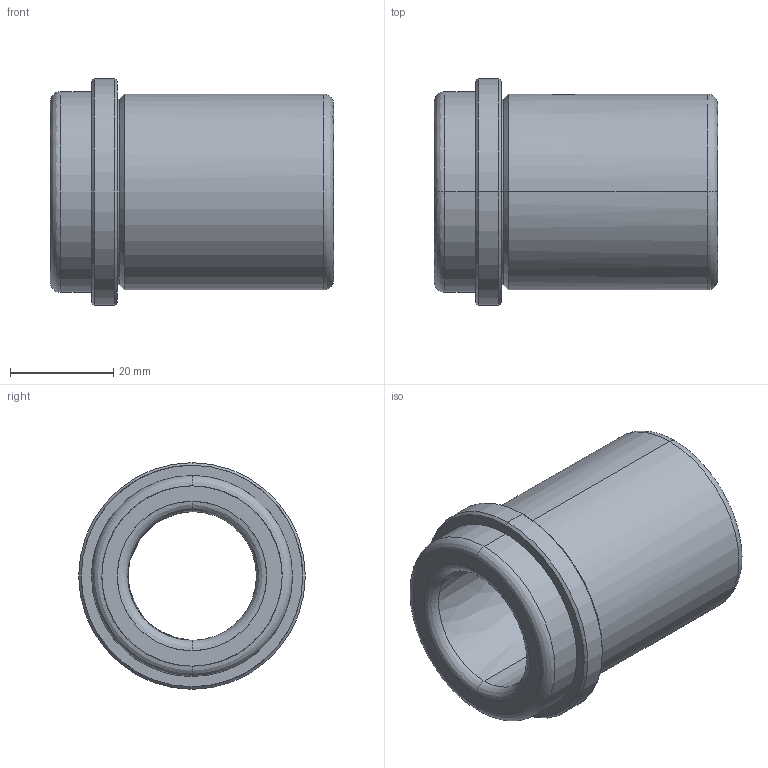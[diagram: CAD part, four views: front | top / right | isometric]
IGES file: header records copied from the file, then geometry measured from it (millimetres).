
Start section: START RECORD GO HERE.
Global section: file name: CF 632 25 x 55.igs; native system: DASSAULT SYSTEMES CATIA V5 R20 - www.3ds.com; preprocessor: CATIA Version 5 Release 20 ; author: Utente; organization: NB04-ASUS; date: 20201226.203727; units: millimetre
Bounding box: 55 x 44 x 44 mm (x, y, z)
Surface area: 13027.1 mm2 (no closed solid volume)
Topology: 0 solids, 0 shells, 33 faces, 212 edges, 212 vertices
Faces by surface type: revolution 28, plane 5
